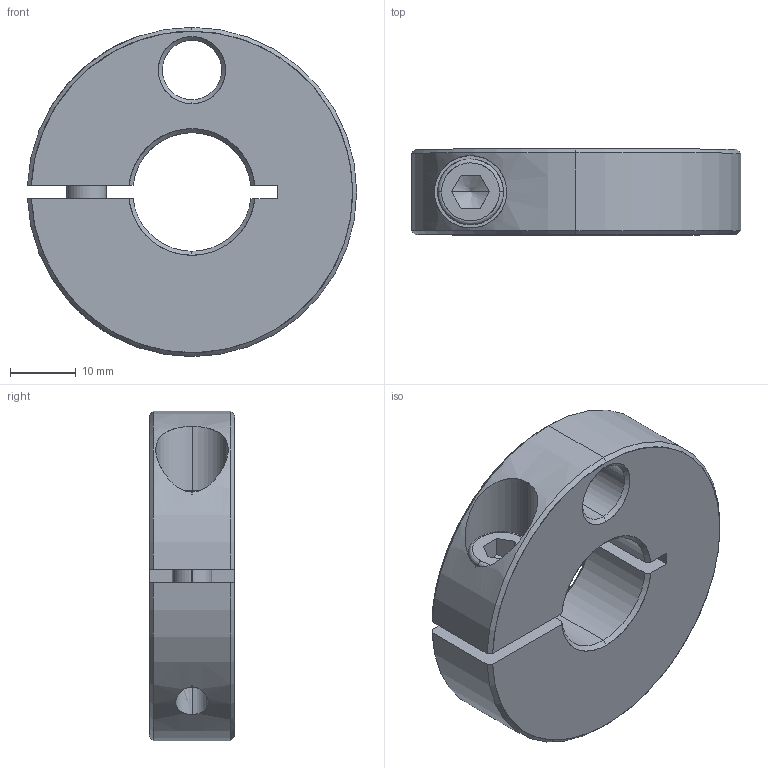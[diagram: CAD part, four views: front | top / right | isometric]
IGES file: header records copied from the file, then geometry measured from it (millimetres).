
Start section: SolidWorks IGES FILE using analytic representation for surfaces
Global section: file name: C:\WIX2\Positioning\3865\3865W018.igs; native system: SolidWorks 2003 by SolidWorks Corporation; preprocessor: Version 5.3; author: Joan; date: 030722.172923; units: millimetre
Bounding box: 49.98 x 13 x 50 mm (x, y, z)
Surface area: 8090.9 mm2 (no closed solid volume)
Topology: 0 solids, 0 shells, 65 faces, 998 edges, 996 vertices
Faces by surface type: revolution 45, bspline 20
